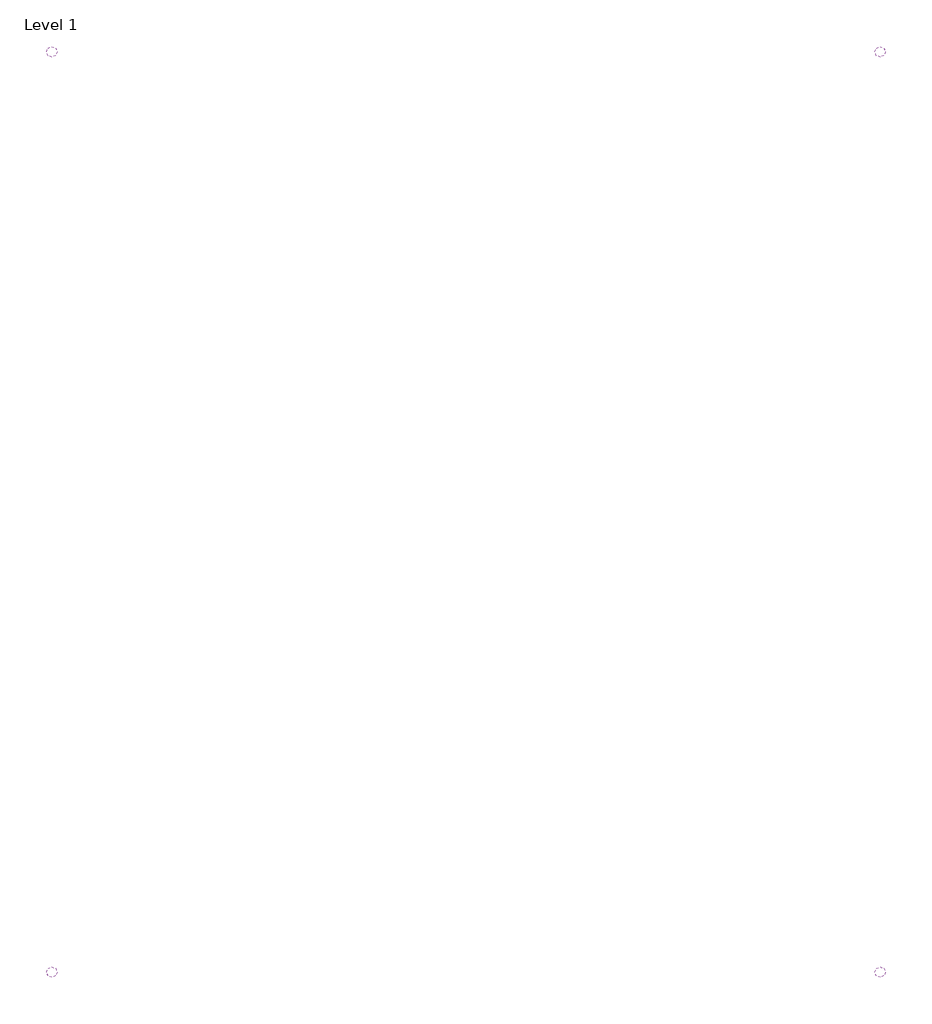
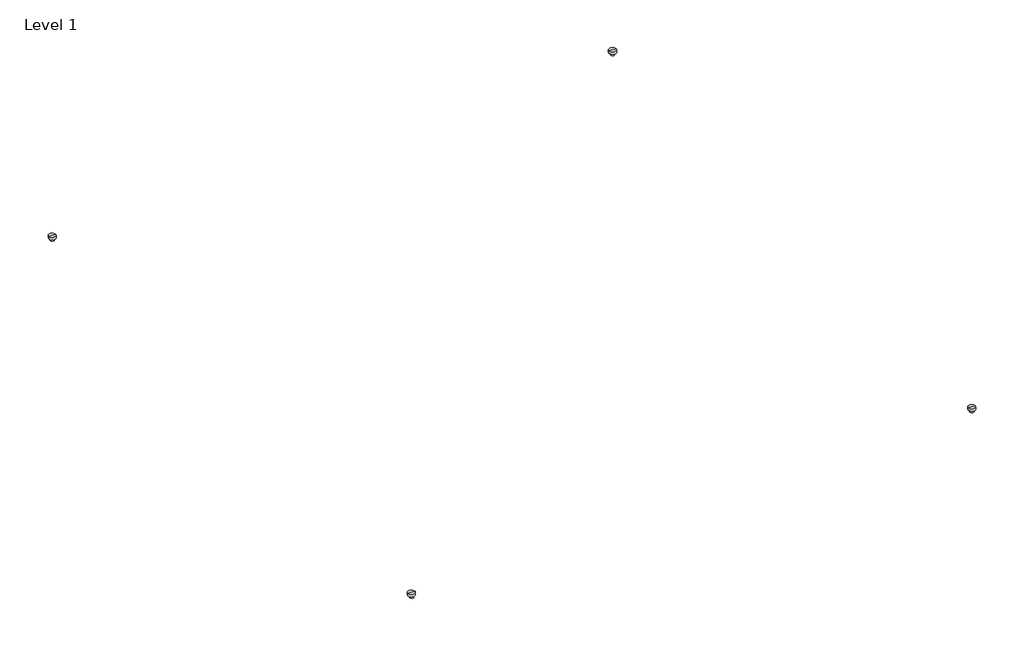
# One storey: 4 alarms.
"""IFC4 building model written with IfcOpenShell, lengths in millimetres."""

from ifc_helpers import new_model, si_unit, origin, place, context, project, spatial, transform, mapped, element, save
from components import smoke_detector_plain_6db7d990

model = new_model("IFC4")

# Units and contexts
model_context = context("Model", 3, world=origin())
ifc_project = project(units=[si_unit("LENGTHUNIT", "METRE", prefix="MILLI")], contexts=[model_context])

# Site, building, storey
site = spatial("IfcSite", under=ifc_project)
building = spatial("IfcBuilding", under=site)
storey = spatial("IfcBuildingStorey", under=building, Name="Level 1", Elevation=0.0)

# Alarms
placement = place(None, origin())
smoke_detector_plain_shape = smoke_detector_plain_6db7d990(model_context)
element("IfcAlarm", 1, ObjectType="Smoke Detector : Plain", at=placement, inside=storey, context=model_context, shape_type="MappedRepresentation", body=[
    mapped(smoke_detector_plain_shape, transform((6815.3985546, 17664.4545981, 2438.4), x_axis=(1.0, 0.0, 0.0), y_axis=(0.0, -1.0, 0.0), z_axis=(0.0, 0.0, -1.0))),
])
element("IfcAlarm", 2, ObjectType="Smoke Detector : Plain", at=placement, inside=storey, context=model_context, shape_type="MappedRepresentation", body=[
    mapped(smoke_detector_plain_shape, transform((17808.7752071, 17664.4545981, 2438.4), x_axis=(1.0, 0.0, 0.0), y_axis=(0.0, -1.0, 0.0), z_axis=(0.0, 0.0, -1.0))),
])
element("IfcAlarm", 3, ObjectType="Smoke Detector : Plain", at=placement, inside=storey, context=model_context, shape_type="MappedRepresentation", body=[
    mapped(smoke_detector_plain_shape, transform((6815.3985546, 5455.3303481, 2438.4), x_axis=(1.0, 0.0, 0.0), y_axis=(0.0, -1.0, 0.0), z_axis=(0.0, 0.0, -1.0))),
])
element("IfcAlarm", 4, ObjectType="Smoke Detector : Plain", at=placement, inside=storey, context=model_context, shape_type="MappedRepresentation", body=[
    mapped(smoke_detector_plain_shape, transform((17808.7752071, 5455.3303481, 2438.4), x_axis=(1.0, 0.0, 0.0), y_axis=(0.0, -1.0, 0.0), z_axis=(0.0, 0.0, -1.0))),
])

save(model, "model.ifc")
